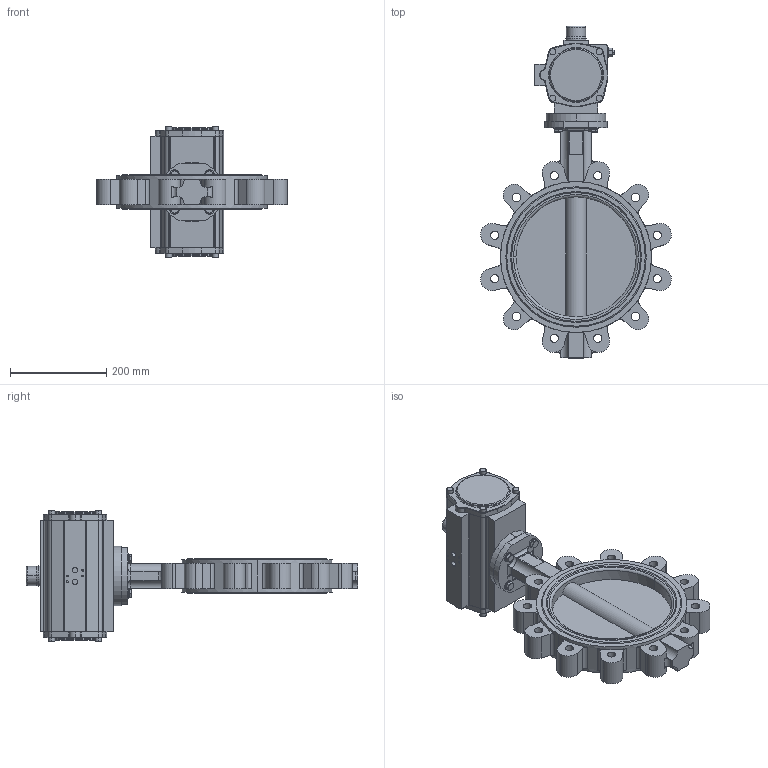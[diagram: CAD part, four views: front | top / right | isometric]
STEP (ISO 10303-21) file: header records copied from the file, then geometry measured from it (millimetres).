
FILE_DESCRIPTION (( 'STEP AP214' ), '1' );
FILE_NAME ('67716.step', '2020-10-26T07:28:04', ( '' ), ( '' ), 'SwSTEP 2.0', 'SolidWorks 2019', '' );
FILE_SCHEMA (( 'AUTOMOTIVE_DESIGN' ));
Length unit declared in the file: millimetre
Products named in the file (6): 67716; DA0300-V22_01; 66383; 6kt-Schr DIN 933_M10x45; U-Scheibe DIN 125 A_M10; TL20-0250_M01
Assembly tree (11 placements, depth 2):
  67716
    TL20-0250_M01
    66383
    DA0300-V22_01
    6kt-Schr DIN 933_M10x45  x4
    U-Scheibe DIN 125 A_M10  x4
Bounding box: 396.56 x 690.5 x 272.6 mm (x, y, z)
Volume: 9361678.8 mm3; surface area: 710003.2 mm2
Topology: 13 solids, 13 shells, 813 faces, 1994 edges, 1278 vertices
Faces by surface type: plane 354, cylinder 352, torus 50, cone 49, bspline 8
Entity records: 25529 total; most frequent: CARTESIAN_POINT 5219, DIRECTION 3958, ORIENTED_EDGE 3580, EDGE_CURVE 1790, AXIS2_PLACEMENT_3D 1529, VERTEX_POINT 1158, VECTOR 900, LINE 900
